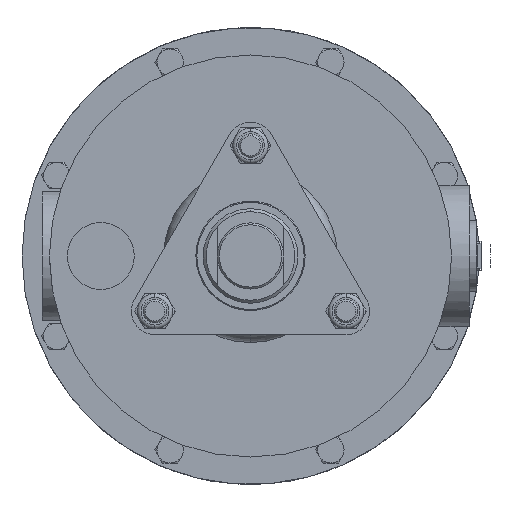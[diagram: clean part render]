
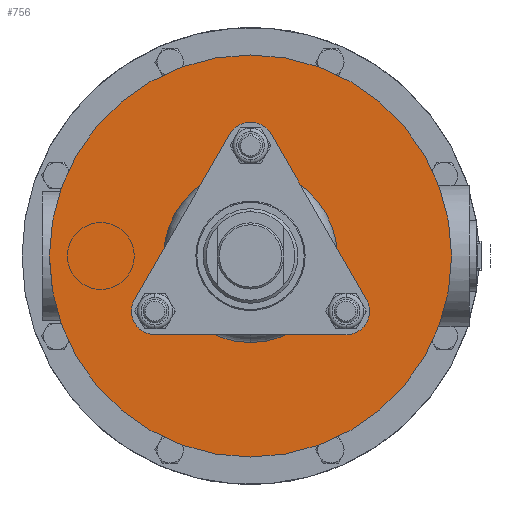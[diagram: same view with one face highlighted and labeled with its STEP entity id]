
A CAD part, front view. The second image highlights one B-rep face of the part: STEP entity #756.
In plain terms, the highlighted planar face has unit normal (0, -1, 0).
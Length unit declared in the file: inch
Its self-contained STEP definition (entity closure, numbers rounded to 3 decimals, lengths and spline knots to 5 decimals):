
#89=CARTESIAN_POINT('',(0.,-7.188,0.));
#90=DIRECTION('',(0.,-1.,0.));
#91=DIRECTION('',(-1.,0.,0.));
#92=AXIS2_PLACEMENT_3D('',#89,#90,#91);
#94=CARTESIAN_POINT('',(0.,-7.188,0.));
#95=DIRECTION('',(0.,1.,0.));
#96=DIRECTION('',(-1.,0.,0.));
#97=AXIS2_PLACEMENT_3D('',#94,#95,#96);
#580=CARTESIAN_POINT('',(-3.19,-7.188,0.));
#581=CARTESIAN_POINT('',(3.19,-7.188,0.));
#582=VERTEX_POINT('',#580);
#583=VERTEX_POINT('',#581);
#746=CARTESIAN_POINT('',(0.,-7.188,0.));
#747=DIRECTION('',(0.,1.,0.));
#748=DIRECTION('',(1.,0.,0.));
#749=AXIS2_PLACEMENT_3D('',#746,#747,#748);
#750=PLANE('',#749);
#752=ORIENTED_EDGE('',*,*,#751,.F.);
#753=ORIENTED_EDGE('',*,*,#741,.T.);
#754=EDGE_LOOP('',(#752,#753));
#755=FACE_OUTER_BOUND('',#754,.F.);
#756=ADVANCED_FACE('',(#755),#750,.F.);
#93=CIRCLE('',#92,3.19);
#98=CIRCLE('',#97,3.19);
#741=EDGE_CURVE('',#582,#583,#98,.T.);
#751=EDGE_CURVE('',#582,#583,#93,.T.);
